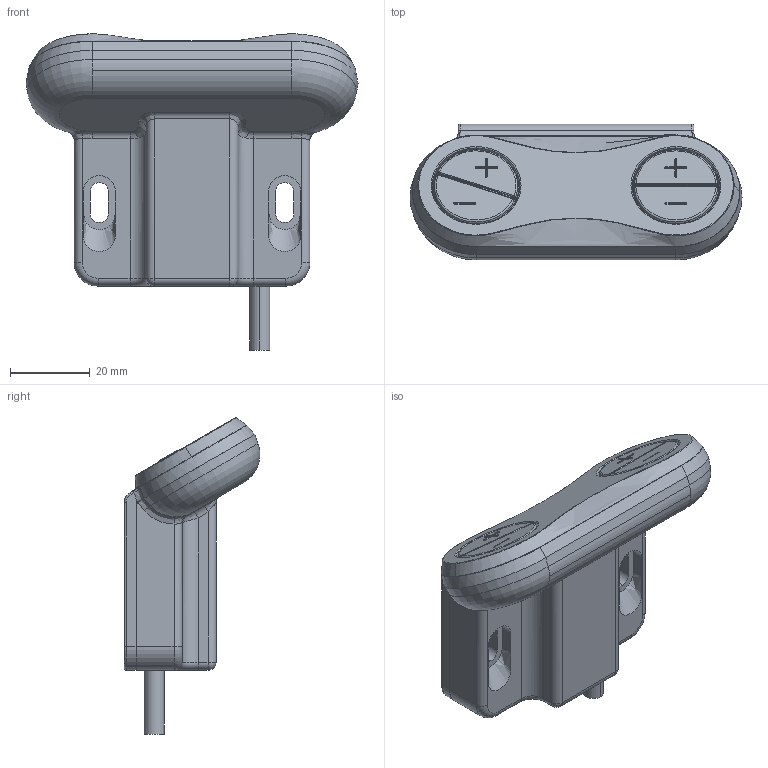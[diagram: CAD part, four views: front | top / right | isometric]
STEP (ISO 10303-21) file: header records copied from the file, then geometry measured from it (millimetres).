
FILE_DESCRIPTION (( 'STEP AP203' ), '1' );
FILE_NAME ('3D_TDH17.STEP', '2018-12-12T02:57:33', ( '' ), ( '' ), 'SwSTEP 2.0', 'SolidWorks 2015', '' );
FILE_SCHEMA (( 'CONFIG_CONTROL_DESIGN' ));
Length unit declared in the file: millimetre
Products named in the file (1): 3D_TDH17
Bounding box: 83.06 x 33.98 x 79.12 mm (x, y, z)
Volume: 72168.9 mm3; surface area: 26505.9 mm2
Topology: 9 solids, 9 shells, 519 faces, 1252 edges, 740 vertices
Faces by surface type: plane 200, cylinder 153, torus 66, bspline 56, cone 40, sphere 4
Entity records: 20972 total; most frequent: CARTESIAN_POINT 9217, ORIENTED_EDGE 2456, DIRECTION 2413, EDGE_CURVE 1228, AXIS2_PLACEMENT_3D 883, VERTEX_POINT 738, VECTOR 647, LINE 647
